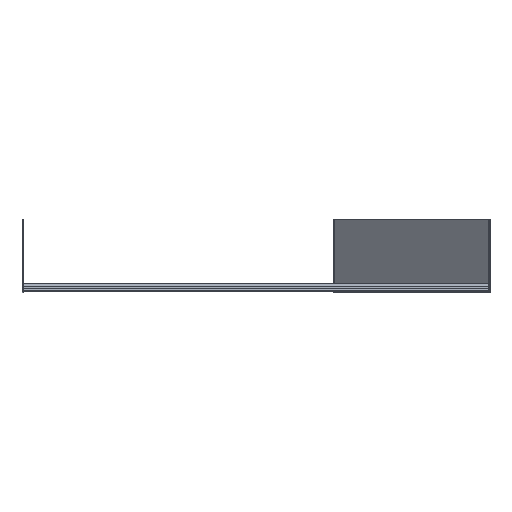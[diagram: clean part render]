
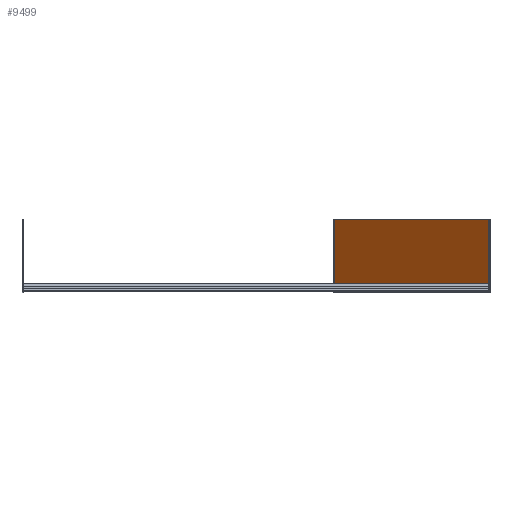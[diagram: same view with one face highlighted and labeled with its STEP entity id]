
A CAD part, top view. The second image highlights one B-rep face of the part: STEP entity #9499.
In plain terms, the highlighted planar face has unit normal (-0.682, 0, 0.731).
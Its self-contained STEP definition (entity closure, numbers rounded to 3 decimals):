
#181 = CARTESIAN_POINT ( 'NONE',  ( 599.523, 140., -0.445 ) ) ;
#321 = DIRECTION ( 'NONE',  ( -0.682, 0., 0.731 ) ) ;
#567 = VECTOR ( 'NONE', #1958, 1000. ) ;
#940 = VECTOR ( 'NONE', #5706, 1000. ) ;
#1454 = DIRECTION ( 'NONE',  ( 0.731, 0., 0.682 ) ) ;
#1611 = LINE ( 'NONE', #12365, #940 ) ;
#1958 = DIRECTION ( 'NONE',  ( -0.731, 0., -0.682 ) ) ;
#2421 = LINE ( 'NONE', #9930, #3007 ) ;
#3007 = VECTOR ( 'NONE', #3412, 1000. ) ;
#3265 = VERTEX_POINT ( 'NONE', #181 ) ;
#3412 = DIRECTION ( 'NONE',  ( 0., 1., 0. ) ) ;
#3432 = CARTESIAN_POINT ( 'NONE',  ( 600., 140., 0. ) ) ;
#3873 = LINE ( 'NONE', #6129, #567 ) ;
#4023 = ORIENTED_EDGE ( 'NONE', *, *, #13786, .F. ) ;
#4356 = ORIENTED_EDGE ( 'NONE', *, *, #11501, .F. ) ;
#4443 = EDGE_LOOP ( 'NONE', ( #4356, #4023, #12732, #8288 ) ) ;
#4703 = PLANE ( 'NONE',  #5504 ) ;
#5308 = CARTESIAN_POINT ( 'NONE',  ( 301.112, 0., -278.962 ) ) ;
#5504 = AXIS2_PLACEMENT_3D ( 'NONE', #3432, #321, #1454 ) ;
#5706 = DIRECTION ( 'NONE',  ( 0., 1., 0. ) ) ;
#6129 = CARTESIAN_POINT ( 'NONE',  ( 600., 0., 0. ) ) ;
#6268 = CARTESIAN_POINT ( 'NONE',  ( 301.112, 140., -278.962 ) ) ;
#6828 = FACE_OUTER_BOUND ( 'NONE', #4443, .T. ) ;
#6990 = EDGE_CURVE ( 'NONE', #11517, #3265, #1611, .T. ) ;
#7735 = CARTESIAN_POINT ( 'NONE',  ( 599.523, 0., -0.445 ) ) ;
#7777 = VERTEX_POINT ( 'NONE', #6268 ) ;
#8087 = DIRECTION ( 'NONE',  ( -0.731, 0., -0.682 ) ) ;
#8288 = ORIENTED_EDGE ( 'NONE', *, *, #13350, .T. ) ;
#9150 = VERTEX_POINT ( 'NONE', #5308 ) ;
#9499 = ADVANCED_FACE ( 'NONE', ( #6828 ), #4703, .T. ) ;
#9930 = CARTESIAN_POINT ( 'NONE',  ( 301.112, 0., -278.962 ) ) ;
#10208 = LINE ( 'NONE', #12530, #10592 ) ;
#10592 = VECTOR ( 'NONE', #8087, 1000. ) ;
#11501 = EDGE_CURVE ( 'NONE', #9150, #7777, #2421, .T. ) ;
#11517 = VERTEX_POINT ( 'NONE', #7735 ) ;
#12365 = CARTESIAN_POINT ( 'NONE',  ( 599.523, 0., -0.445 ) ) ;
#12530 = CARTESIAN_POINT ( 'NONE',  ( 600., 140., 0. ) ) ;
#12732 = ORIENTED_EDGE ( 'NONE', *, *, #6990, .T. ) ;
#13350 = EDGE_CURVE ( 'NONE', #3265, #7777, #10208, .T. ) ;
#13786 = EDGE_CURVE ( 'NONE', #11517, #9150, #3873, .T. ) ;
